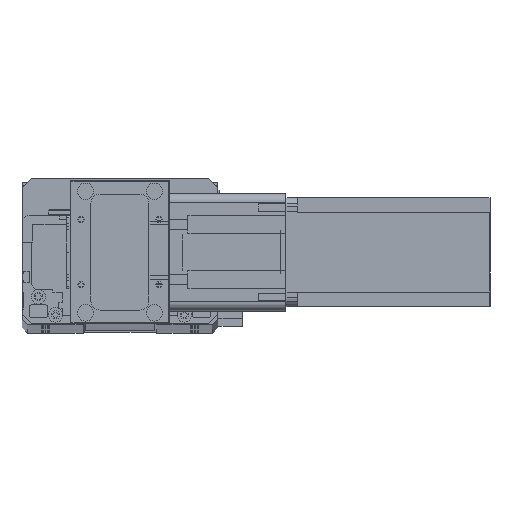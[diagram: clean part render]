
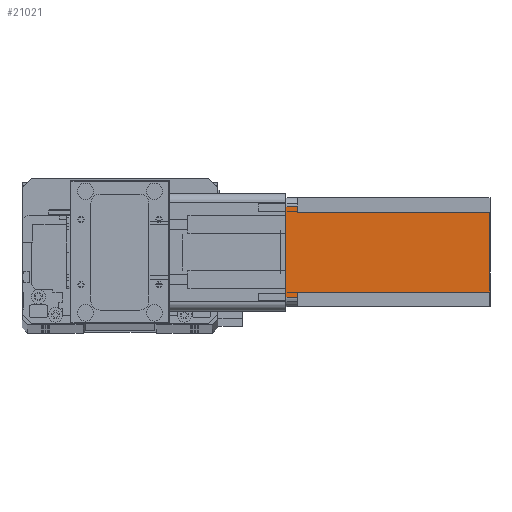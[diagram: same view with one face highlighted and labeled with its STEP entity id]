
A CAD part, top view. The second image highlights one B-rep face of the part: STEP entity #21021.
In plain terms, the highlighted planar face has unit normal (0, 0, 1) as drawn and (0, 1, 0) by its records, which use the part's own axes.
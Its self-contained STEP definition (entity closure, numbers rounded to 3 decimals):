
#866 = EDGE_CURVE ( 'NONE', #8470, #1208, #20220, .T. ) ;
#950 = VECTOR ( 'NONE', #24323, 1000. ) ;
#1208 = VERTEX_POINT ( 'NONE', #19754 ) ;
#1669 = EDGE_CURVE ( 'NONE', #4749, #15835, #18278, .T. ) ;
#1996 = ORIENTED_EDGE ( 'NONE', *, *, #25371, .F. ) ;
#3273 = EDGE_CURVE ( 'NONE', #4749, #1208, #26470, .T. ) ;
#3309 = EDGE_CURVE ( 'NONE', #20488, #8470, #16340, .T. ) ;
#3895 = EDGE_CURVE ( 'NONE', #8103, #13143, #6180, .T. ) ;
#3921 = DIRECTION ( 'NONE',  ( 0., 0., 1. ) ) ;
#4392 = DIRECTION ( 'NONE',  ( -1., 0., 0. ) ) ;
#4749 = VERTEX_POINT ( 'NONE', #27701 ) ;
#6180 = LINE ( 'NONE', #11090, #12560 ) ;
#6247 = VECTOR ( 'NONE', #4392, 1000. ) ;
#6289 = DIRECTION ( 'NONE',  ( -1., 0., 0. ) ) ;
#6639 = VECTOR ( 'NONE', #19803, 1000. ) ;
#6815 = CARTESIAN_POINT ( 'NONE',  ( 0., 60., 0. ) ) ;
#6942 = VECTOR ( 'NONE', #9975, 1000. ) ;
#7058 = ORIENTED_EDGE ( 'NONE', *, *, #7126, .T. ) ;
#7126 = EDGE_CURVE ( 'NONE', #13143, #15835, #20697, .T. ) ;
#7329 = LINE ( 'NONE', #19427, #950 ) ;
#8103 = VERTEX_POINT ( 'NONE', #14459 ) ;
#8245 = EDGE_LOOP ( 'NONE', ( #15533, #15931, #16479, #23303, #29297, #1996, #8971, #7058 ) ) ;
#8470 = VERTEX_POINT ( 'NONE', #8656 ) ;
#8656 = CARTESIAN_POINT ( 'NONE',  ( 52., 60., -6.5 ) ) ;
#8821 = DIRECTION ( 'NONE',  ( 0., 0., 1. ) ) ;
#8853 = CARTESIAN_POINT ( 'NONE',  ( 52., 60., -112.5 ) ) ;
#8971 = ORIENTED_EDGE ( 'NONE', *, *, #3895, .T. ) ;
#9975 = DIRECTION ( 'NONE',  ( -1., 0., 0. ) ) ;
#10560 = VERTEX_POINT ( 'NONE', #29889 ) ;
#10604 = CARTESIAN_POINT ( 'NONE',  ( 5., 60., -112.5 ) ) ;
#10682 = VECTOR ( 'NONE', #30354, 1000. ) ;
#11090 = CARTESIAN_POINT ( 'NONE',  ( 8., 60., -6.5 ) ) ;
#12560 = VECTOR ( 'NONE', #6289, 1000. ) ;
#13143 = VERTEX_POINT ( 'NONE', #16986 ) ;
#13801 = EDGE_CURVE ( 'NONE', #20488, #10560, #25369, .T. ) ;
#14186 = CARTESIAN_POINT ( 'NONE',  ( 5., 60., 0. ) ) ;
#14459 = CARTESIAN_POINT ( 'NONE',  ( 8., 60., -6.5 ) ) ;
#15533 = ORIENTED_EDGE ( 'NONE', *, *, #1669, .F. ) ;
#15611 = VECTOR ( 'NONE', #8821, 1000. ) ;
#15835 = VERTEX_POINT ( 'NONE', #14186 ) ;
#15913 = CARTESIAN_POINT ( 'NONE',  ( 52., 60., -6.5 ) ) ;
#15931 = ORIENTED_EDGE ( 'NONE', *, *, #3273, .T. ) ;
#16323 = FACE_OUTER_BOUND ( 'NONE', #8245, .T. ) ;
#16340 = LINE ( 'NONE', #18515, #15611 ) ;
#16479 = ORIENTED_EDGE ( 'NONE', *, *, #866, .F. ) ;
#16986 = CARTESIAN_POINT ( 'NONE',  ( 5., 60., -6.5 ) ) ;
#18278 = LINE ( 'NONE', #6815, #6247 ) ;
#18339 = DIRECTION ( 'NONE',  ( 0., 1., 0. ) ) ;
#18515 = CARTESIAN_POINT ( 'NONE',  ( 52., 60., -112.5 ) ) ;
#19427 = CARTESIAN_POINT ( 'NONE',  ( 8., 60., -112.5 ) ) ;
#19754 = CARTESIAN_POINT ( 'NONE',  ( 55., 60., -6.5 ) ) ;
#19803 = DIRECTION ( 'NONE',  ( 1., 0., 0. ) ) ;
#20220 = LINE ( 'NONE', #15913, #6639 ) ;
#20488 = VERTEX_POINT ( 'NONE', #8853 ) ;
#20697 = LINE ( 'NONE', #10604, #27033 ) ;
#21021 = ADVANCED_FACE ( 'NONE', ( #16323 ), #27849, .T. ) ;
#23303 = ORIENTED_EDGE ( 'NONE', *, *, #3309, .F. ) ;
#24323 = DIRECTION ( 'NONE',  ( 0., 0., -1. ) ) ;
#24402 = CARTESIAN_POINT ( 'NONE',  ( 0., 60., -112.5 ) ) ;
#25020 = DIRECTION ( 'NONE',  ( 0., 0., 1. ) ) ;
#25064 = AXIS2_PLACEMENT_3D ( 'NONE', #30274, #18339, #3921 ) ;
#25369 = LINE ( 'NONE', #24402, #6942 ) ;
#25371 = EDGE_CURVE ( 'NONE', #8103, #10560, #7329, .T. ) ;
#26470 = LINE ( 'NONE', #27935, #10682 ) ;
#27033 = VECTOR ( 'NONE', #25020, 1000. ) ;
#27701 = CARTESIAN_POINT ( 'NONE',  ( 55., 60., 0. ) ) ;
#27849 = PLANE ( 'NONE',  #25064 ) ;
#27935 = CARTESIAN_POINT ( 'NONE',  ( 55., 60., -112.5 ) ) ;
#29297 = ORIENTED_EDGE ( 'NONE', *, *, #13801, .T. ) ;
#29889 = CARTESIAN_POINT ( 'NONE',  ( 8., 60., -112.5 ) ) ;
#30274 = CARTESIAN_POINT ( 'NONE',  ( 0., 60., -112.5 ) ) ;
#30354 = DIRECTION ( 'NONE',  ( 0., 0., -1. ) ) ;
